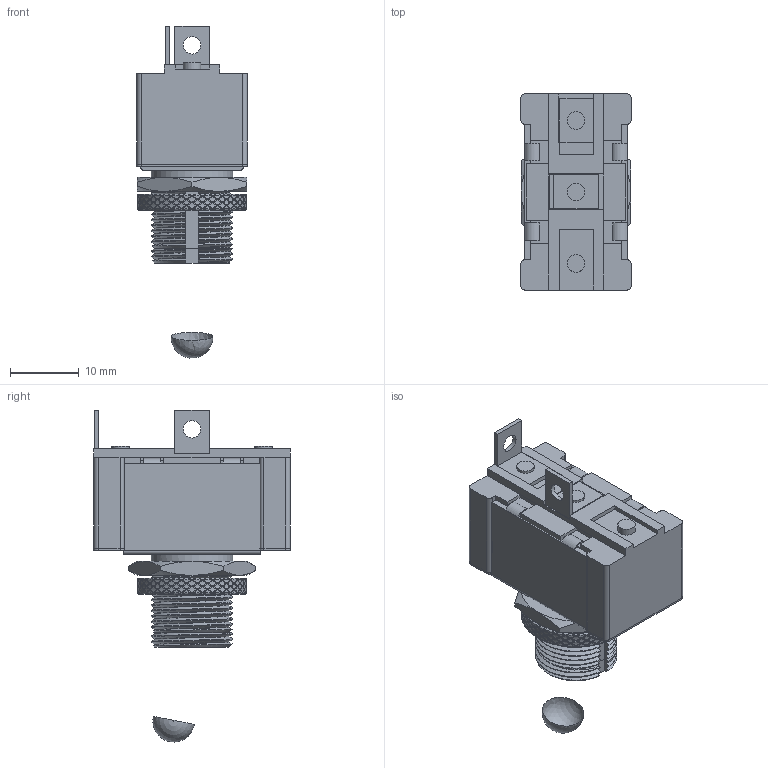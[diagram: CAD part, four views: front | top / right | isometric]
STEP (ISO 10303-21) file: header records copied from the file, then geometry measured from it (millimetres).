
FILE_DESCRIPTION(/* description */ (''),/* implementation_level */ '2;1');
FILE_NAME(/* name */ 'TA2-1A-DC-5.stp',/* time_stamp */ '2024-04-26T11:52:46-07:00',/* author */ ('raniahc'),/* organization */ (''),/* preprocessor_version */ 'ST-DEVELOPER v19.2',/* originating_system */ 'Autodesk Inventor 2024',/* authorisation */ '');
FILE_SCHEMA (('AUTOMOTIVE_DESIGN { 1 0 10303 214 3 1 1 }'));
Products named in the file (9): TA2-1D-DC-5 Base; Corner Bracket; Metal clip; Toggle Switch for TA2-1D-DC-5; 91843A109_Knurled Panel Nut; 7343K187_Toggle Switch; TA2-1D-DC-5 Sides; TA2-1D-DC-5 Height increase; Part168
Assembly tree (10 placements, depth 3):
  TA2-1D-DC-5 Base
    Corner Bracket  x2
    Metal clip
    Toggle Switch for TA2-1D-DC-5
      91843A109_Knurled Panel Nut
      7343K187_Toggle Switch
    TA2-1D-DC-5 Sides  x2
    TA2-1D-DC-5 Height increase
    Part168
Bounding box: 16.08 x 28.6 x 48.39 mm (x, y, z)
Volume: 8169.1 mm3; surface area: 7316 mm2
Topology: 11 solids, 11 shells, 1218 faces, 3250 edges, 2155 vertices
Faces by surface type: plane 918, cylinder 237, bspline 34, cone 26, torus 2, sphere 1
Full cylindrical faces by diameter (mm): 2.54 x7, 4.429 x1, 8.636 x2, 8.666 x3, 9.525 x3, 10.875 x1, 11.906 x1, 15.723 x1
Entity records: 60673 total; most frequent: CARTESIAN_POINT 29656, DIRECTION 6858, ORIENTED_EDGE 6388, EDGE_CURVE 3194, AXIS2_PLACEMENT_3D 2901, VERTEX_POINT 2119, EDGE_LOOP 1311, ELLIPSE 1280
